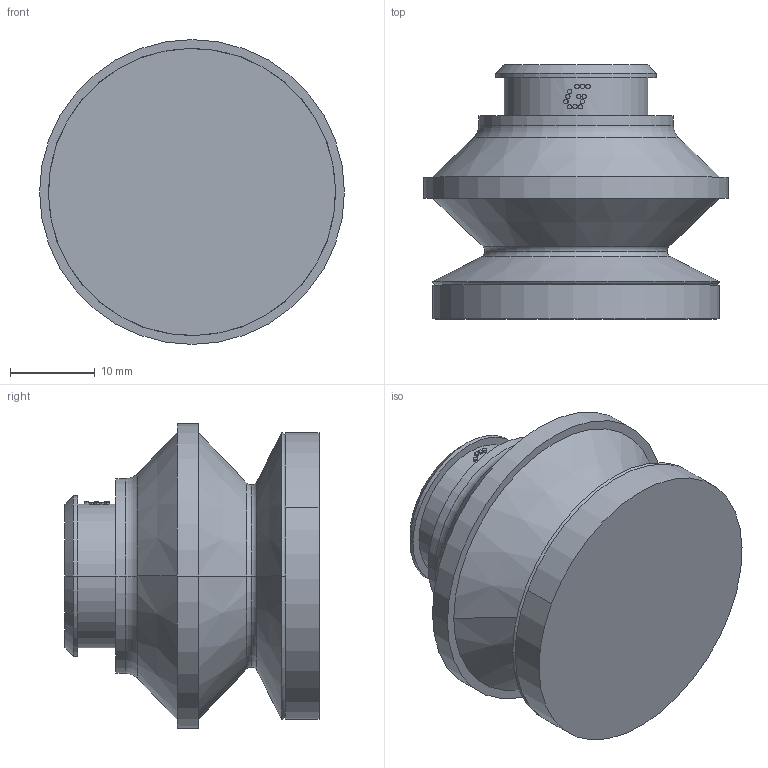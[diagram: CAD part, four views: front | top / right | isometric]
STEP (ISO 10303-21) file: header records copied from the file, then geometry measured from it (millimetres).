
FILE_DESCRIPTION (( 'STEP AP203' ), '1' );
FILE_NAME ('0321611.STEP', '2023-05-11T08:07:30', ( '' ), ( '' ), 'SwSTEP 2.0', 'SolidWorks 2022', '' );
FILE_SCHEMA (( 'CONFIG_CONTROL_DESIGN' ));
Length unit declared in the file: millimetre
Products named in the file (2): Copy of 0321611-AS01^0321611; 0321611
Assembly tree (1 placements, depth 2):
  0321611
    Copy of 0321611-AS01^0321611
Bounding box: 36 x 30 x 36 mm (x, y, z)
Volume: 17995.3 mm3; surface area: 5015.4 mm2
Topology: 1 solids, 1 shells, 69 faces, 136 edges, 86 vertices
Faces by surface type: bspline 24, cylinder 22, torus 8, cone 8, plane 7
Entity records: 3040 total; most frequent: CARTESIAN_POINT 1591, ORIENTED_EDGE 272, DIRECTION 208, EDGE_CURVE 136, AXIS2_PLACEMENT_3D 95, EDGE_LOOP 86, VERTEX_POINT 86, B_SPLINE_CURVE_WITH_KNOTS 72
